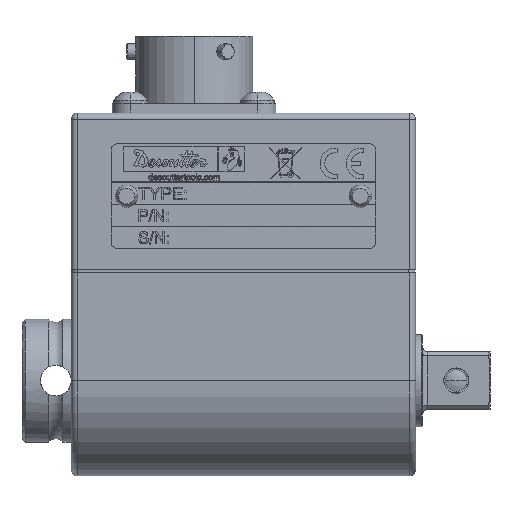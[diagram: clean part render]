
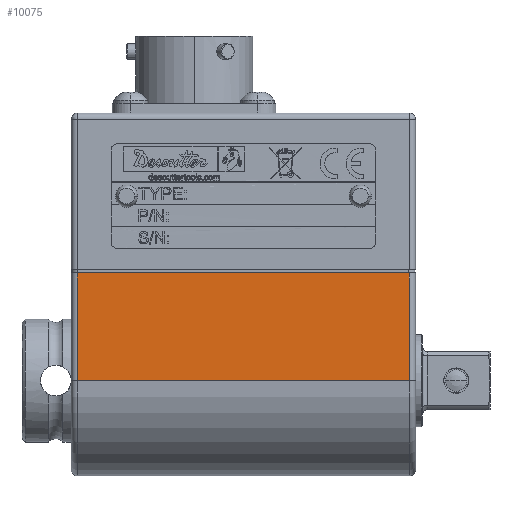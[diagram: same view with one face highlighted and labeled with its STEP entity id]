
A CAD part, front view. The second image highlights one B-rep face of the part: STEP entity #10075.
In plain terms, the highlighted planar face has unit normal (0, -1, 0).
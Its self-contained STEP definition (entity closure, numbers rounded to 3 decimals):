
#9765=DIRECTION('',(0.,0.,1.));
#9766=VECTOR('',#9765,17.5);
#9767=CARTESIAN_POINT('',(-27.,-15.5,0.01));
#9768=LINE('',#9767,#9766);
#9773=DIRECTION('',(1.,0.,0.));
#9774=VECTOR('',#9773,54.);
#9775=CARTESIAN_POINT('',(-27.,-15.5,17.51));
#9776=LINE('',#9775,#9774);
#9781=DIRECTION('',(-1.,0.,0.));
#9782=VECTOR('',#9781,54.);
#9783=CARTESIAN_POINT('',(27.,-15.5,0.01));
#9784=LINE('',#9783,#9782);
#9864=DIRECTION('',(0.,0.,-1.));
#9865=VECTOR('',#9864,17.5);
#9866=CARTESIAN_POINT('',(27.,-15.5,17.51));
#9867=LINE('',#9866,#9865);
#9956=CARTESIAN_POINT('',(27.,-15.5,0.01));
#9957=CARTESIAN_POINT('',(-27.,-15.5,0.01));
#9958=VERTEX_POINT('',#9956);
#9959=VERTEX_POINT('',#9957);
#9960=CARTESIAN_POINT('',(-27.,-15.5,17.51));
#9961=CARTESIAN_POINT('',(27.,-15.5,17.51));
#9962=VERTEX_POINT('',#9960);
#9963=VERTEX_POINT('',#9961);
#10061=CARTESIAN_POINT('',(-28.,-15.5,40.21));
#10062=DIRECTION('',(0.,-1.,0.));
#10063=DIRECTION('',(0.,0.,-1.));
#10064=AXIS2_PLACEMENT_3D('',#10061,#10062,#10063);
#10065=PLANE('',#10064);
#10067=ORIENTED_EDGE('',*,*,#10066,.T.);
#10068=ORIENTED_EDGE('',*,*,#10046,.T.);
#10070=ORIENTED_EDGE('',*,*,#10069,.T.);
#10072=ORIENTED_EDGE('',*,*,#10071,.T.);
#10073=EDGE_LOOP('',(#10067,#10068,#10070,#10072));
#10074=FACE_OUTER_BOUND('',#10073,.F.);
#10046=EDGE_CURVE('',#9959,#9962,#9768,.T.);
#10066=EDGE_CURVE('',#9958,#9959,#9784,.T.);
#10069=EDGE_CURVE('',#9962,#9963,#9776,.T.);
#10071=EDGE_CURVE('',#9963,#9958,#9867,.T.);
#10075=ADVANCED_FACE('',(#10074),#10065,.T.);
